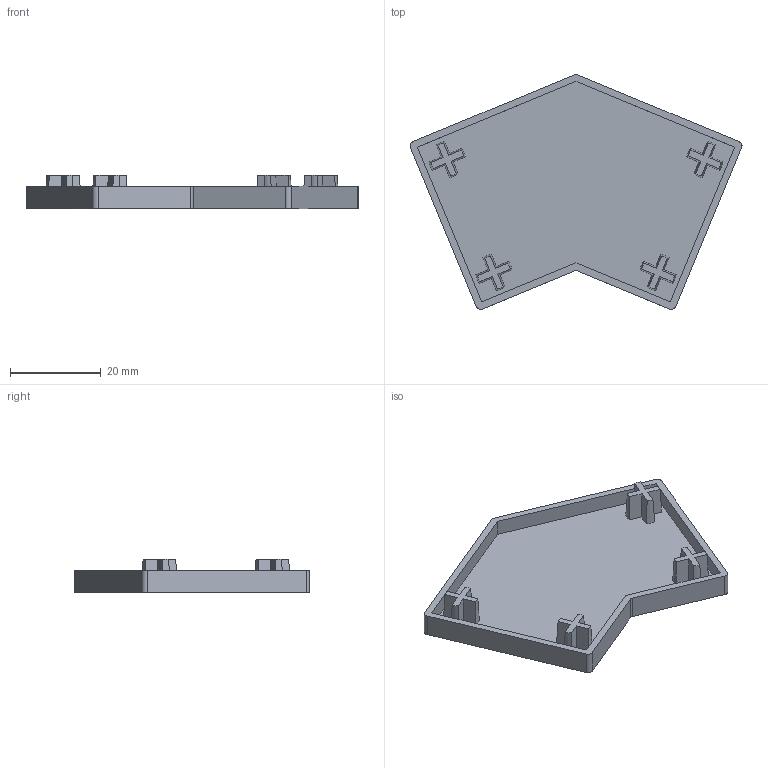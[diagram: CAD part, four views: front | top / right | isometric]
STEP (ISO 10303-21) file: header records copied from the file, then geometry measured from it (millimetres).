
FILE_DESCRIPTION (( 'STEP AP203' ), '1' );
FILE_NAME ('EC40135-8.STEP', '2024-02-19T06:04:24', ( '' ), ( '' ), 'SwSTEP 2.0', 'SolidWorks 2022', '' );
FILE_SCHEMA (( 'CONFIG_CONTROL_DESIGN' ));
Length unit declared in the file: millimetre
Products named in the file (1): EC40135-8
Bounding box: 73.3 x 51.87 x 7.5 mm (x, y, z)
Volume: 5405.4 mm3; surface area: 7464.4 mm2
Topology: 1 solids, 1 shells, 74 faces, 201 edges, 134 vertices
Faces by surface type: plane 51, cone 16, cylinder 7
Entity records: 2440 total; most frequent: CARTESIAN_POINT 506, ORIENTED_EDGE 402, DIRECTION 365, EDGE_CURVE 201, VERTEX_POINT 134, LINE 123, VECTOR 123, AXIS2_PLACEMENT_3D 121
